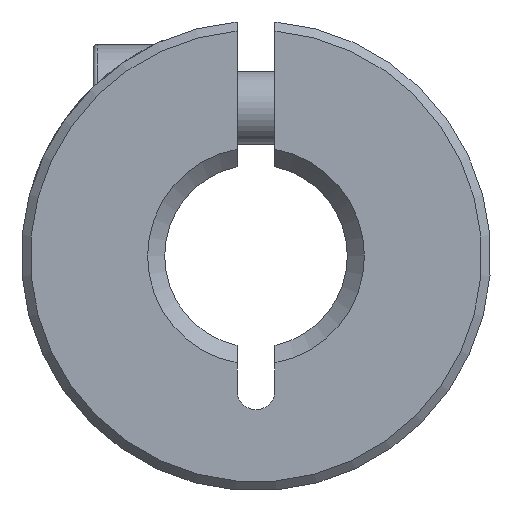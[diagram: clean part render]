
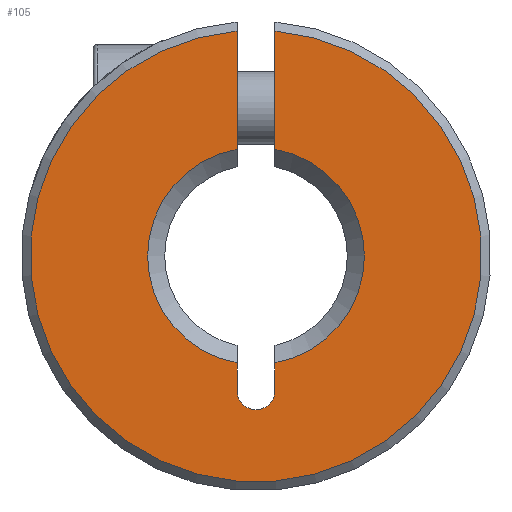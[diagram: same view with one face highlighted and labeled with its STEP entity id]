
A CAD part, left-side view. The second image highlights one B-rep face of the part: STEP entity #105.
In plain terms, the highlighted planar face has unit normal (-1, 0, 0).
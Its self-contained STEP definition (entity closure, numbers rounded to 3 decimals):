
#105 = ADVANCED_FACE( '', ( #178 ), #179, .F. );
#178 = FACE_OUTER_BOUND( '', #251, .T. );
#179 = PLANE( '', #252 );
#251 = EDGE_LOOP( '', ( #473, #474, #475, #476, #477, #478, #479, #480 ) );
#252 = AXIS2_PLACEMENT_3D( '', #481, #482, #483 );
#473 = ORIENTED_EDGE( '', *, *, #550, .T. );
#474 = ORIENTED_EDGE( '', *, *, #517, .T. );
#475 = ORIENTED_EDGE( '', *, *, #526, .T. );
#476 = ORIENTED_EDGE( '', *, *, #508, .F. );
#477 = ORIENTED_EDGE( '', *, *, #504, .T. );
#478 = ORIENTED_EDGE( '', *, *, #513, .T. );
#479 = ORIENTED_EDGE( '', *, *, #488, .T. );
#480 = ORIENTED_EDGE( '', *, *, #552, .T. );
#481 = CARTESIAN_POINT( '', ( -5.5, 0., 0. ) );
#482 = DIRECTION( '', ( 1., 0., 0. ) );
#483 = DIRECTION( '', ( 0., 0., -1. ) );
#488 = EDGE_CURVE( '', #562, #560, #563, .T. );
#504 = EDGE_CURVE( '', #579, #592, #594, .T. );
#508 = EDGE_CURVE( '', #579, #600, #601, .T. );
#513 = EDGE_CURVE( '', #592, #562, #607, .T. );
#517 = EDGE_CURVE( '', #614, #612, #615, .T. );
#526 = EDGE_CURVE( '', #612, #600, #626, .T. );
#550 = EDGE_CURVE( '', #667, #614, #668, .T. );
#552 = EDGE_CURVE( '', #560, #667, #670, .T. );
#560 = VERTEX_POINT( '', #683 );
#562 = VERTEX_POINT( '', #686 );
#563 = LINE( '', #687, #688 );
#579 = VERTEX_POINT( '', #786 );
#592 = VERTEX_POINT( '', #811 );
#594 = LINE( '', #816, #817 );
#600 = VERTEX_POINT( '', #826 );
#601 = CIRCLE( '', #827, 12.5 );
#607 = CIRCLE( '', #837, 6. );
#612 = VERTEX_POINT( '', #842 );
#614 = VERTEX_POINT( '', #847 );
#615 = CIRCLE( '', #848, 6. );
#626 = LINE( '', #866, #867 );
#667 = VERTEX_POINT( '', #926 );
#668 = LINE( '', #927, #928 );
#670 = CIRCLE( '', #931, 1.05 );
#683 = CARTESIAN_POINT( '', ( -5.5, -1.05, -7.45 ) );
#686 = CARTESIAN_POINT( '', ( -5.5, -1.05, -5.907 ) );
#687 = CARTESIAN_POINT( '', ( -5.5, -1.05, 0. ) );
#688 = VECTOR( '', #935, 1000. );
#786 = CARTESIAN_POINT( '', ( -5.5, -1.05, 12.456 ) );
#811 = CARTESIAN_POINT( '', ( -5.5, -1.05, 5.907 ) );
#816 = CARTESIAN_POINT( '', ( -5.5, -1.05, 17.333 ) );
#817 = VECTOR( '', #951, 1000. );
#826 = CARTESIAN_POINT( '', ( -5.5, 1.05, 12.456 ) );
#827 = AXIS2_PLACEMENT_3D( '', #958, #959, #960 );
#837 = AXIS2_PLACEMENT_3D( '', #968, #969, #970 );
#842 = CARTESIAN_POINT( '', ( -5.5, 1.05, 5.907 ) );
#847 = CARTESIAN_POINT( '', ( -5.5, 1.05, -5.907 ) );
#848 = AXIS2_PLACEMENT_3D( '', #977, #978, #979 );
#866 = CARTESIAN_POINT( '', ( -5.5, 1.05, 0. ) );
#867 = VECTOR( '', #993, 1000. );
#926 = CARTESIAN_POINT( '', ( -5.5, 1.05, -7.45 ) );
#927 = CARTESIAN_POINT( '', ( -5.5, 1.05, -7.45 ) );
#928 = VECTOR( '', #1027, 1000. );
#931 = AXIS2_PLACEMENT_3D( '', #1029, #1030, #1031 );
#935 = DIRECTION( '', ( 0., 0., -1. ) );
#951 = DIRECTION( '', ( 0., 0., -1. ) );
#958 = CARTESIAN_POINT( '', ( -5.5, 0., 0. ) );
#959 = DIRECTION( '', ( 1., 0., 0. ) );
#960 = DIRECTION( '', ( 0., 0., -1. ) );
#968 = CARTESIAN_POINT( '', ( -5.5, 0., 0. ) );
#969 = DIRECTION( '', ( 1., 0., 0. ) );
#970 = DIRECTION( '', ( 0., 0., -1. ) );
#977 = CARTESIAN_POINT( '', ( -5.5, 0., 0. ) );
#978 = DIRECTION( '', ( 1., 0., 0. ) );
#979 = DIRECTION( '', ( 0., 0., -1. ) );
#993 = DIRECTION( '', ( 0., 0., 1. ) );
#1027 = DIRECTION( '', ( 0., 0., 1. ) );
#1029 = CARTESIAN_POINT( '', ( -5.5, 0., -7.45 ) );
#1030 = DIRECTION( '', ( 1., 0., 0. ) );
#1031 = DIRECTION( '', ( 0., 0., -1. ) );
